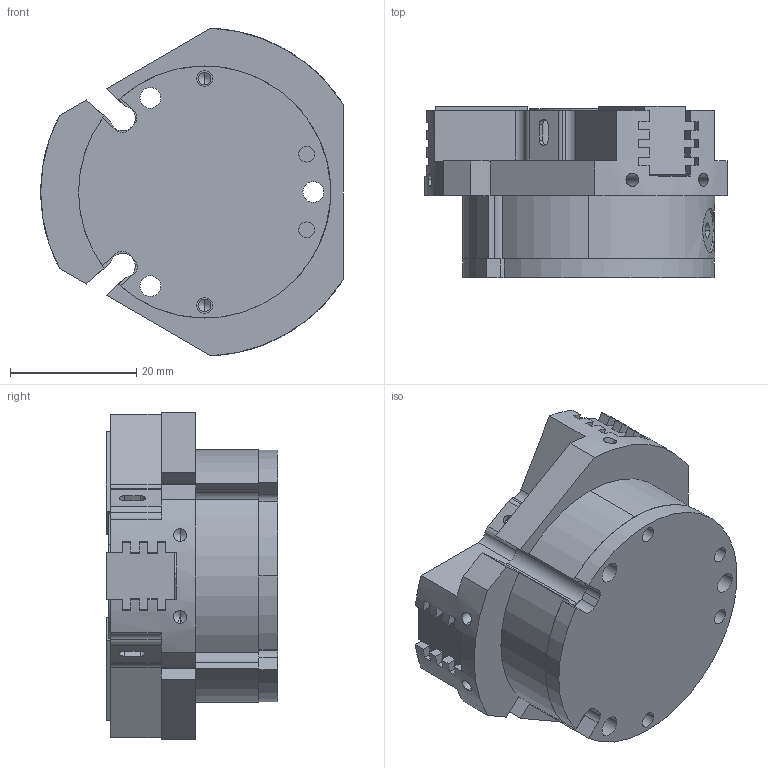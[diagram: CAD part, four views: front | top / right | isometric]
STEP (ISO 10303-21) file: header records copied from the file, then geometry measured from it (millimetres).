
FILE_DESCRIPTION (( 'STEP AP214' ), '1' );
FILE_NAME ('THN-40C-1.STEP', '2021-03-09T10:37:17', ( '' ), ( '' ), 'SwSTEP 2.0', 'SolidWorks 2016', '' );
FILE_SCHEMA (( 'AUTOMOTIVE_DESIGN' ));
Length unit declared in the file: millimetre
Products named in the file (5): THN-40A-1-04; THN-40A-1-02; THN-40C-1-01; THN-40C-1; THN-40C-1-03
Assembly tree (6 placements, depth 2):
  THN-40C-1
    THN-40C-1-01
    THN-40C-1-03
    THN-40A-1-04
    THN-40A-1-02  x3
Bounding box: 48 x 27.2 x 51.96 mm (x, y, z)
Volume: 33453 mm3; surface area: 19124.7 mm2
Topology: 6 solids, 6 shells, 446 faces, 1209 edges, 766 vertices
Faces by surface type: plane 227, cylinder 151, cone 64, bspline 4
Entity records: 15473 total; most frequent: CARTESIAN_POINT 5956, DIRECTION 1881, ORIENTED_EDGE 1802, EDGE_CURVE 901, AXIS2_PLACEMENT_3D 665, VERTEX_POINT 590, LINE 551, VECTOR 551
